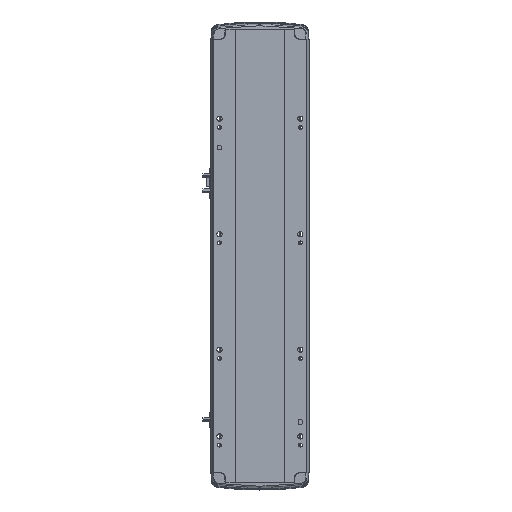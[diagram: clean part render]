
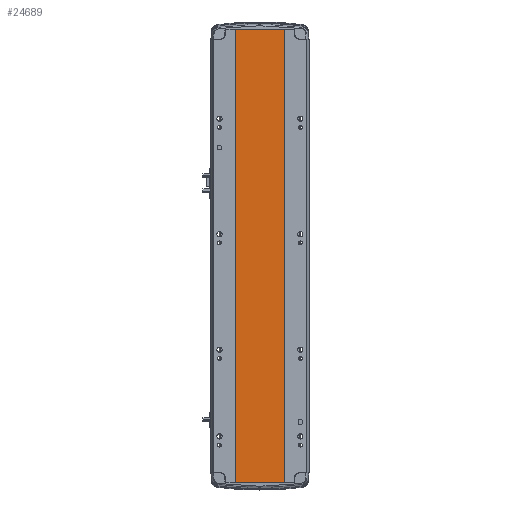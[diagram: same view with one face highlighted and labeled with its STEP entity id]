
A CAD part, front view. The second image highlights one B-rep face of the part: STEP entity #24689.
In plain terms, the highlighted planar face has unit normal (0, -1, 0).
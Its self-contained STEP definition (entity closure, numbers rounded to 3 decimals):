
#1415 = VECTOR ( 'NONE', #3576, 1000. ) ;
#3576 = DIRECTION ( 'NONE',  ( 1., 0., 0. ) ) ;
#4030 = CARTESIAN_POINT ( 'NONE',  ( 41.793, 0.998, 784.5 ) ) ;
#6168 = CARTESIAN_POINT ( 'NONE',  ( -41.791, 1., 784.5 ) ) ;
#6810 = CARTESIAN_POINT ( 'NONE',  ( 0., 0.999, 0. ) ) ;
#7292 = DIRECTION ( 'NONE',  ( 1., 0., 0. ) ) ;
#8586 = CARTESIAN_POINT ( 'NONE',  ( -41.791, 1., 0. ) ) ;
#9096 = VECTOR ( 'NONE', #19858, 1000. ) ;
#9724 = ORIENTED_EDGE ( 'NONE', *, *, #17690, .F. ) ;
#10284 = EDGE_LOOP ( 'NONE', ( #23978, #9724, #21241, #36238 ) ) ;
#10451 = VERTEX_POINT ( 'NONE', #8586 ) ;
#10620 = CARTESIAN_POINT ( 'NONE',  ( -41.791, 1., 784.5 ) ) ;
#12566 = EDGE_CURVE ( 'NONE', #10451, #26316, #33765, .T. ) ;
#13613 = DIRECTION ( 'NONE',  ( 0., 0., -1. ) ) ;
#17308 = LINE ( 'NONE', #10620, #9096 ) ;
#17690 = EDGE_CURVE ( 'NONE', #22232, #26316, #25181, .T. ) ;
#18318 = AXIS2_PLACEMENT_3D ( 'NONE', #32505, #38668, #20178 ) ;
#19858 = DIRECTION ( 'NONE',  ( 0., 0., -1. ) ) ;
#20178 = DIRECTION ( 'NONE',  ( -1., 0., 0. ) ) ;
#20436 = CARTESIAN_POINT ( 'NONE',  ( 41.793, 0.998, 784.5 ) ) ;
#20716 = VERTEX_POINT ( 'NONE', #6168 ) ;
#20929 = EDGE_CURVE ( 'NONE', #20716, #10451, #17308, .T. ) ;
#21241 = ORIENTED_EDGE ( 'NONE', *, *, #24567, .F. ) ;
#22232 = VERTEX_POINT ( 'NONE', #20436 ) ;
#23824 = LINE ( 'NONE', #25723, #24782 ) ;
#23922 = CARTESIAN_POINT ( 'NONE',  ( 41.793, 0.998, 0. ) ) ;
#23978 = ORIENTED_EDGE ( 'NONE', *, *, #12566, .T. ) ;
#24567 = EDGE_CURVE ( 'NONE', #20716, #22232, #23824, .T. ) ;
#24689 = ADVANCED_FACE ( 'NONE', ( #32590 ), #26259, .F. ) ;
#24782 = VECTOR ( 'NONE', #7292, 1000. ) ;
#25181 = LINE ( 'NONE', #4030, #36308 ) ;
#25723 = CARTESIAN_POINT ( 'NONE',  ( 0., 0.999, 784.5 ) ) ;
#26259 = PLANE ( 'NONE',  #18318 ) ;
#26316 = VERTEX_POINT ( 'NONE', #23922 ) ;
#32505 = CARTESIAN_POINT ( 'NONE',  ( 0., 0.999, 784.5 ) ) ;
#32590 = FACE_OUTER_BOUND ( 'NONE', #10284, .T. ) ;
#33765 = LINE ( 'NONE', #6810, #1415 ) ;
#36238 = ORIENTED_EDGE ( 'NONE', *, *, #20929, .T. ) ;
#36308 = VECTOR ( 'NONE', #13613, 1000. ) ;
#38668 = DIRECTION ( 'NONE',  ( 0., 1., 0. ) ) ;
